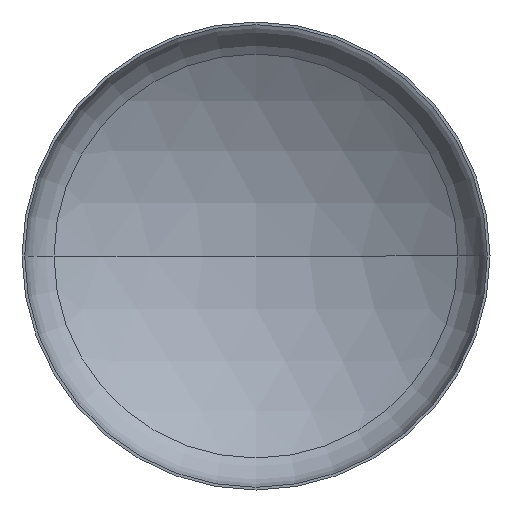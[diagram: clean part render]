
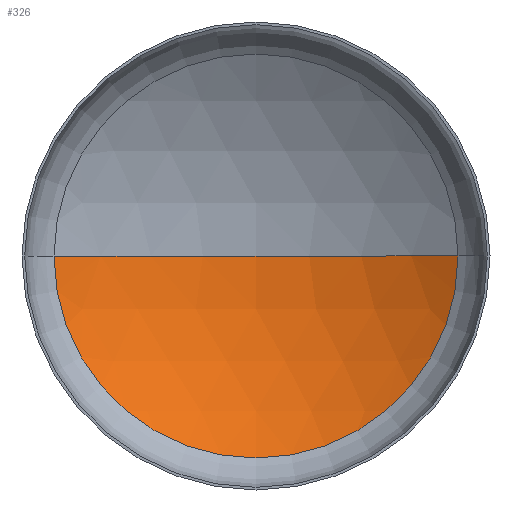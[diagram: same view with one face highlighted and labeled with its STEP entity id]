
A CAD part, front view. The second image highlights one B-rep face of the part: STEP entity #326.
In plain terms, the highlighted spherical face has radius 552 mm.
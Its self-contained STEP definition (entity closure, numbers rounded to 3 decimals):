
#1 = ORIENTED_EDGE ( 'NONE', *, *, #180, .F. ) ;
#4 = EDGE_LOOP ( 'NONE', ( #254, #196, #1 ) ) ;
#5 = CARTESIAN_POINT ( 'NONE',  ( 0., -376., 0. ) ) ;
#8 = DIRECTION ( 'NONE',  ( 0., 0., 1. ) ) ;
#21 = AXIS2_PLACEMENT_3D ( 'NONE', #5, #8, #135 ) ;
#27 = CARTESIAN_POINT ( 'NONE',  ( 0., -376., 0. ) ) ;
#38 = DIRECTION ( 'NONE',  ( 0., 0., 1. ) ) ;
#60 = VERTEX_POINT ( 'NONE', #234 ) ;
#69 = DIRECTION ( 'NONE',  ( 1., 0., 0. ) ) ;
#82 = AXIS2_PLACEMENT_3D ( 'NONE', #319, #38, #69 ) ;
#111 = CIRCLE ( 'NONE', #339, 302.084 ) ;
#133 = DIRECTION ( 'NONE',  ( 0., 1., 0. ) ) ;
#135 = DIRECTION ( 'NONE',  ( -1., 0., 0. ) ) ;
#136 = VERTEX_POINT ( 'NONE', #402 ) ;
#179 = CARTESIAN_POINT ( 'NONE',  ( 0., 176., 0. ) ) ;
#180 = EDGE_CURVE ( 'NONE', #60, #259, #285, .T. ) ;
#183 = DIRECTION ( 'NONE',  ( -1., 0., 0. ) ) ;
#196 = ORIENTED_EDGE ( 'NONE', *, *, #392, .T. ) ;
#198 = AXIS2_PLACEMENT_3D ( 'NONE', #27, #408, #183 ) ;
#216 = CARTESIAN_POINT ( 'NONE',  ( 0., 86.006, 0. ) ) ;
#234 = CARTESIAN_POINT ( 'NONE',  ( -302.084, 86.006, 0. ) ) ;
#254 = ORIENTED_EDGE ( 'NONE', *, *, #329, .F. ) ;
#259 = VERTEX_POINT ( 'NONE', #179 ) ;
#285 = CIRCLE ( 'NONE', #198, 552. ) ;
#287 = FACE_OUTER_BOUND ( 'NONE', #4, .T. ) ;
#316 = CIRCLE ( 'NONE', #82, 552. ) ;
#319 = CARTESIAN_POINT ( 'NONE',  ( 0., -376., 0. ) ) ;
#326 = ADVANCED_FACE ( 'NONE', ( #287 ), #347, .F. ) ;
#329 = EDGE_CURVE ( 'NONE', #136, #60, #111, .T. ) ;
#339 = AXIS2_PLACEMENT_3D ( 'NONE', #216, #133, #382 ) ;
#347 = SPHERICAL_SURFACE ( 'NONE', #21, 552. ) ;
#382 = DIRECTION ( 'NONE',  ( -1., 0., 0. ) ) ;
#392 = EDGE_CURVE ( 'NONE', #136, #259, #316, .T. ) ;
#402 = CARTESIAN_POINT ( 'NONE',  ( 302.084, 86.006, 0. ) ) ;
#408 = DIRECTION ( 'NONE',  ( 0., 0., -1. ) ) ;
